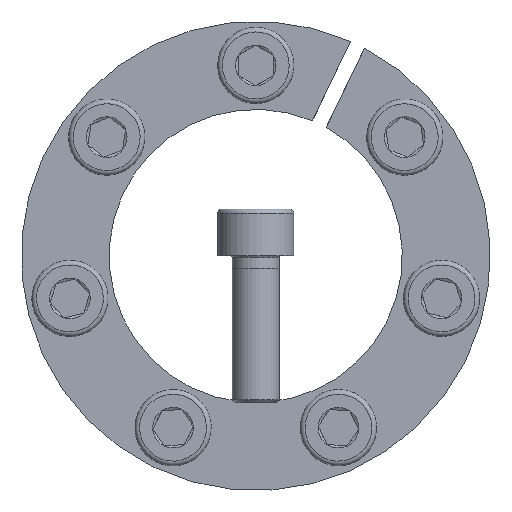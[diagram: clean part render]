
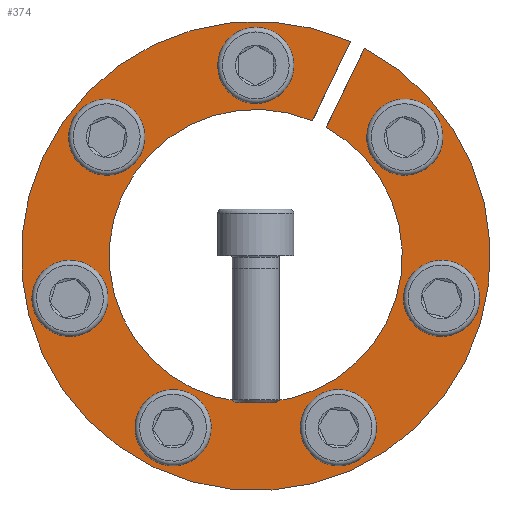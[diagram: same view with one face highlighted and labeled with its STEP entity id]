
A CAD part, front view. The second image highlights one B-rep face of the part: STEP entity #374.
In plain terms, the highlighted planar face has unit normal (0, -1, 0).
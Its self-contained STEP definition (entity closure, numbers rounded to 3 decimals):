
#374 = ADVANCED_FACE( '', ( #575, #576, #577, #578, #579, #580, #581, #582 ), #583, .F. );
#575 = FACE_BOUND( '', #729, .T. );
#576 = FACE_BOUND( '', #730, .T. );
#577 = FACE_BOUND( '', #731, .T. );
#578 = FACE_OUTER_BOUND( '', #732, .T. );
#579 = FACE_BOUND( '', #733, .T. );
#580 = FACE_BOUND( '', #734, .T. );
#581 = FACE_BOUND( '', #735, .T. );
#582 = FACE_BOUND( '', #736, .T. );
#583 = PLANE( '', #737 );
#729 = EDGE_LOOP( '', ( #932 ) );
#730 = EDGE_LOOP( '', ( #933 ) );
#731 = EDGE_LOOP( '', ( #934 ) );
#732 = EDGE_LOOP( '', ( #935, #936, #937, #938 ) );
#733 = EDGE_LOOP( '', ( #939 ) );
#734 = EDGE_LOOP( '', ( #940 ) );
#735 = EDGE_LOOP( '', ( #941 ) );
#736 = EDGE_LOOP( '', ( #942 ) );
#737 = AXIS2_PLACEMENT_3D( '', #943, #944, #945 );
#932 = ORIENTED_EDGE( '', *, *, #1252, .T. );
#933 = ORIENTED_EDGE( '', *, *, #1253, .T. );
#934 = ORIENTED_EDGE( '', *, *, #1254, .T. );
#935 = ORIENTED_EDGE( '', *, *, #1250, .F. );
#936 = ORIENTED_EDGE( '', *, *, #1246, .F. );
#937 = ORIENTED_EDGE( '', *, *, #1255, .T. );
#938 = ORIENTED_EDGE( '', *, *, #1256, .F. );
#939 = ORIENTED_EDGE( '', *, *, #1257, .T. );
#940 = ORIENTED_EDGE( '', *, *, #1258, .T. );
#941 = ORIENTED_EDGE( '', *, *, #1259, .T. );
#942 = ORIENTED_EDGE( '', *, *, #1260, .T. );
#943 = CARTESIAN_POINT( '', ( 0., 0., 40. ) );
#944 = DIRECTION( '', ( 0., 1., 0. ) );
#945 = DIRECTION( '', ( 0., 0., 1. ) );
#1246 = EDGE_CURVE( '', #1377, #1379, #1380, .T. );
#1250 = EDGE_CURVE( '', #1379, #1386, #1387, .T. );
#1252 = EDGE_CURVE( '', #1389, #1389, #1390, .T. );
#1253 = EDGE_CURVE( '', #1391, #1391, #1392, .T. );
#1254 = EDGE_CURVE( '', #1393, #1393, #1394, .T. );
#1255 = EDGE_CURVE( '', #1377, #1395, #1396, .T. );
#1256 = EDGE_CURVE( '', #1386, #1395, #1397, .T. );
#1257 = EDGE_CURVE( '', #1398, #1398, #1399, .T. );
#1258 = EDGE_CURVE( '', #1400, #1400, #1401, .T. );
#1259 = EDGE_CURVE( '', #1402, #1402, #1403, .T. );
#1260 = EDGE_CURVE( '', #1404, #1404, #1405, .T. );
#1377 = VERTEX_POINT( '', #1497 );
#1379 = VERTEX_POINT( '', #1500 );
#1380 = LINE( '', #1501, #1502 );
#1386 = VERTEX_POINT( '', #1510 );
#1387 = CIRCLE( '', #1511, 25. );
#1389 = VERTEX_POINT( '', #1514 );
#1390 = CIRCLE( '', #1515, 4. );
#1391 = VERTEX_POINT( '', #1516 );
#1392 = CIRCLE( '', #1517, 4. );
#1393 = VERTEX_POINT( '', #1518 );
#1394 = CIRCLE( '', #1519, 4. );
#1395 = VERTEX_POINT( '', #1520 );
#1396 = CIRCLE( '', #1521, 40. );
#1397 = LINE( '', #1522, #1523 );
#1398 = VERTEX_POINT( '', #1524 );
#1399 = CIRCLE( '', #1525, 4. );
#1400 = VERTEX_POINT( '', #1526 );
#1401 = CIRCLE( '', #1527, 4. );
#1402 = VERTEX_POINT( '', #1528 );
#1403 = CIRCLE( '', #1529, 4. );
#1404 = VERTEX_POINT( '', #1530 );
#1405 = CIRCLE( '', #1531, 4. );
#1497 = CARTESIAN_POINT( '', ( 16.164, 0., 36.588 ) );
#1500 = CARTESIAN_POINT( '', ( 9.651, 0., 23.062 ) );
#1501 = CARTESIAN_POINT( '', ( 16.174, 0., 36.608 ) );
#1502 = VECTOR( '', #1612, 1000. );
#1510 = CARTESIAN_POINT( '', ( 12.014, 0., 21.924 ) );
#1511 = AXIS2_PLACEMENT_3D( '', #1618, #1619, #1620 );
#1514 = CARTESIAN_POINT( '', ( -32.575, 0., -3.332 ) );
#1515 = AXIS2_PLACEMENT_3D( '', #1622, #1623, #1624 );
#1516 = CARTESIAN_POINT( '', ( 10.497, 0., -31.017 ) );
#1517 = AXIS2_PLACEMENT_3D( '', #1625, #1626, #1627 );
#1518 = CARTESIAN_POINT( '', ( 27.903, 0., 17.136 ) );
#1519 = AXIS2_PLACEMENT_3D( '', #1628, #1629, #1630 );
#1520 = CARTESIAN_POINT( '', ( 18.528, 0., 35.45 ) );
#1521 = AXIS2_PLACEMENT_3D( '', #1631, #1632, #1633 );
#1522 = CARTESIAN_POINT( '', ( 12.014, 0., 21.924 ) );
#1523 = VECTOR( '', #1634, 1000. );
#1524 = CARTESIAN_POINT( '', ( 4., 0., 32.5 ) );
#1525 = AXIS2_PLACEMENT_3D( '', #1635, #1636, #1637 );
#1526 = CARTESIAN_POINT( '', ( 30.795, 0., -11.132 ) );
#1527 = AXIS2_PLACEMENT_3D( '', #1638, #1639, #1640 );
#1528 = CARTESIAN_POINT( '', ( -17.705, 0., -27.546 ) );
#1529 = AXIS2_PLACEMENT_3D( '', #1641, #1642, #1643 );
#1530 = CARTESIAN_POINT( '', ( -22.916, 0., 23.391 ) );
#1531 = AXIS2_PLACEMENT_3D( '', #1644, #1645, #1646 );
#1612 = DIRECTION( '', ( -0.434, 0., -0.901 ) );
#1618 = CARTESIAN_POINT( '', ( 0., 0., 0. ) );
#1619 = DIRECTION( '', ( 0., -1., 0. ) );
#1620 = DIRECTION( '', ( 0., 0., -1. ) );
#1622 = CARTESIAN_POINT( '', ( -31.685, 0., -7.232 ) );
#1623 = DIRECTION( '', ( 0., 1., 0. ) );
#1624 = DIRECTION( '', ( -0.223, 0., 0.975 ) );
#1625 = CARTESIAN_POINT( '', ( 14.101, 0., -29.281 ) );
#1626 = DIRECTION( '', ( 0., 1., 0. ) );
#1627 = DIRECTION( '', ( -0.901, 0., -0.434 ) );
#1628 = CARTESIAN_POINT( '', ( 25.41, 0., 20.263 ) );
#1629 = DIRECTION( '', ( 0., 1., 0. ) );
#1630 = DIRECTION( '', ( 0.623, 0., -0.782 ) );
#1631 = CARTESIAN_POINT( '', ( 0., 0., 0. ) );
#1632 = DIRECTION( '', ( 0., -1., 0. ) );
#1633 = DIRECTION( '', ( 0., 0., -1. ) );
#1634 = DIRECTION( '', ( 0.434, 0., 0.901 ) );
#1635 = CARTESIAN_POINT( '', ( 0., 0., 32.5 ) );
#1636 = DIRECTION( '', ( 0., 1., 0. ) );
#1637 = DIRECTION( '', ( 1., 0., 0. ) );
#1638 = CARTESIAN_POINT( '', ( 31.685, 0., -7.232 ) );
#1639 = DIRECTION( '', ( 0., 1., 0. ) );
#1640 = DIRECTION( '', ( -0.223, 0., -0.975 ) );
#1641 = CARTESIAN_POINT( '', ( -14.101, 0., -29.281 ) );
#1642 = DIRECTION( '', ( 0., 1., 0. ) );
#1643 = DIRECTION( '', ( -0.901, 0., 0.434 ) );
#1644 = CARTESIAN_POINT( '', ( -25.41, 0., 20.263 ) );
#1645 = DIRECTION( '', ( 0., 1., 0. ) );
#1646 = DIRECTION( '', ( 0.623, 0., 0.782 ) );
